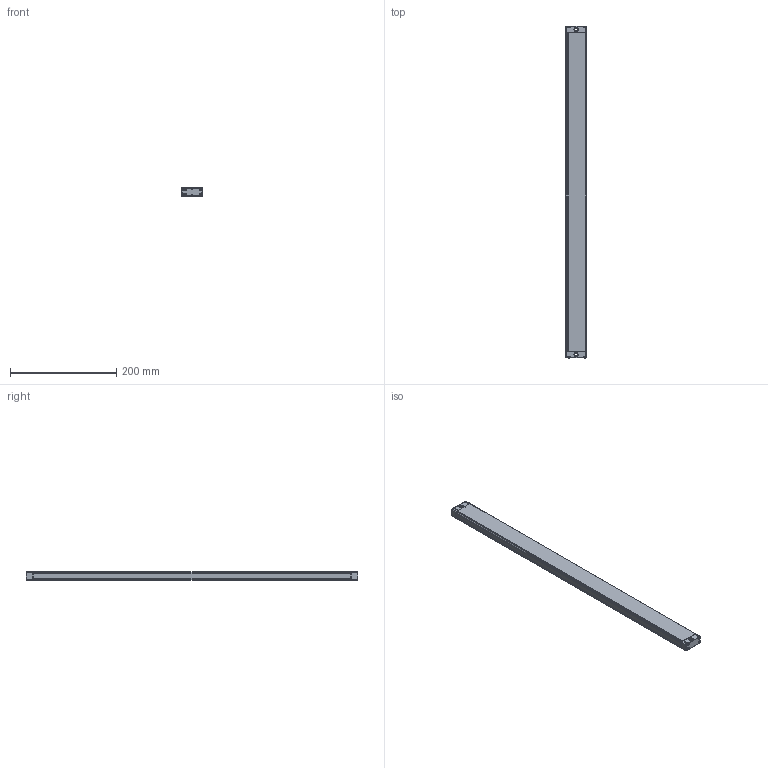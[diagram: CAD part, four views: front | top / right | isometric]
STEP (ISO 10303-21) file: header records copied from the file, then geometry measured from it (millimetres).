
FILE_DESCRIPTION((''),'2;1');
FILE_NAME('EB15--3610_ASM','2021-07-22T10:12:43',('18720616900'),(''),'CREO PARAMETRIC BY PTC INC, 2019010','CREO PARAMETRIC BY PTC INC, 2019010','');
FILE_SCHEMA(('CONFIG_CONTROL_DESIGN'));
Length unit declared in the file: millimetre
Products named in the file (6): EB15-00; EB15-000; EB15-0003; EB15-0004; ST-3-12; EB15--3610_ASM
Assembly tree (12 placements, depth 2):
  EB15--3610_ASM
    EB15-00
    EB15-000
    EB15-0003
    EB15-0004
    ST-3-12  x8
Bounding box: 39.15 x 625 x 15.8 mm (x, y, z)
Volume: 375339.7 mm3; surface area: 93270 mm2
Topology: 12 solids, 12 shells, 827 faces, 2188 edges, 1368 vertices
Faces by surface type: plane 242, bspline 188, cone 176, cylinder 165, torus 40, sphere 16
Entity records: 16044 total; most frequent: CARTESIAN_POINT 7660, ORIENTED_EDGE 1804, DIRECTION 1603, EDGE_CURVE 902, AXIS2_PLACEMENT_3D 577, VERTEX_POINT 563, VECTOR 449, LINE 449
